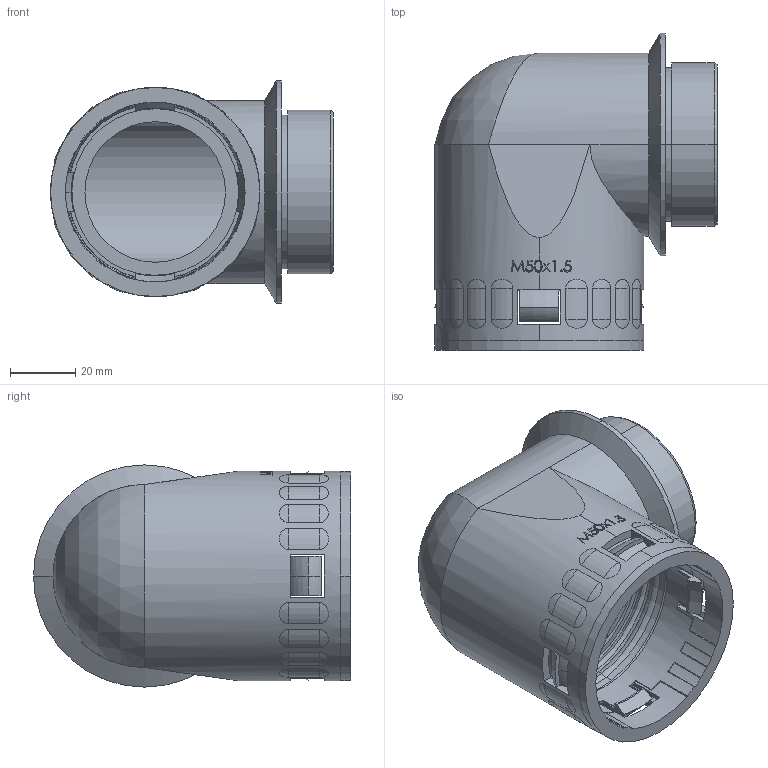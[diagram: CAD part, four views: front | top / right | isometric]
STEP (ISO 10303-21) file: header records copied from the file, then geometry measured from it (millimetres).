
FILE_DESCRIPTION (( 'STEP AP203' ), '1' );
FILE_NAME ('WQW-M50-AD54.5.STEP', '2020-03-16T01:31:53', ( '' ), ( '' ), 'SwSTEP 2.0', 'SolidWorks 2016', '' );
FILE_SCHEMA (( 'CONFIG_CONTROL_DESIGN' ));
Length unit declared in the file: millimetre
Products named in the file (4): WQW-M50-AD54.5; NSK-AD54.5; WQW-M50-AD54.5-01; GFD-AD54.5
Assembly tree (3 placements, depth 2):
  WQW-M50-AD54.5
    WQW-M50-AD54.5-01
    GFD-AD54.5
    NSK-AD54.5
Bounding box: 86.5 x 97 x 68 mm (x, y, z)
Volume: 129399.6 mm3; surface area: 60248.6 mm2
Topology: 5 solids, 5 shells, 477 faces, 1289 edges, 837 vertices
Faces by surface type: plane 195, cylinder 146, cone 49, bspline 33, sphere 33, torus 21
Entity records: 18204 total; most frequent: CARTESIAN_POINT 5823, ORIENTED_EDGE 2572, DIRECTION 2495, EDGE_CURVE 1286, AXIS2_PLACEMENT_3D 950, VERTEX_POINT 837, LINE 595, VECTOR 595
